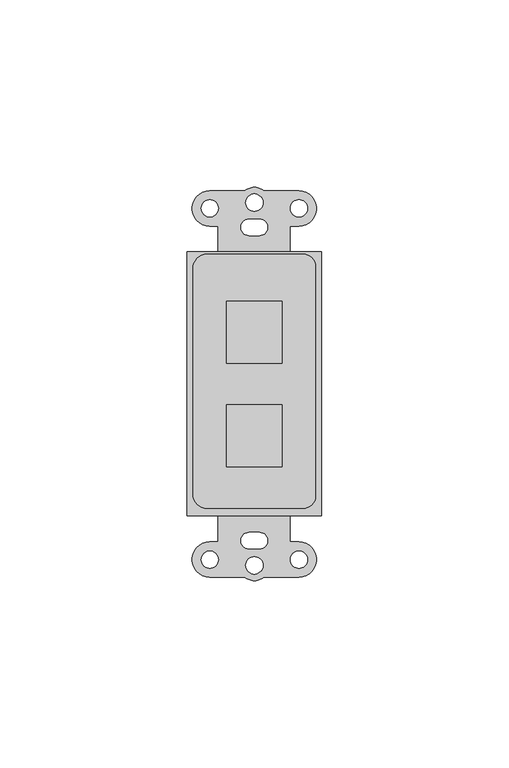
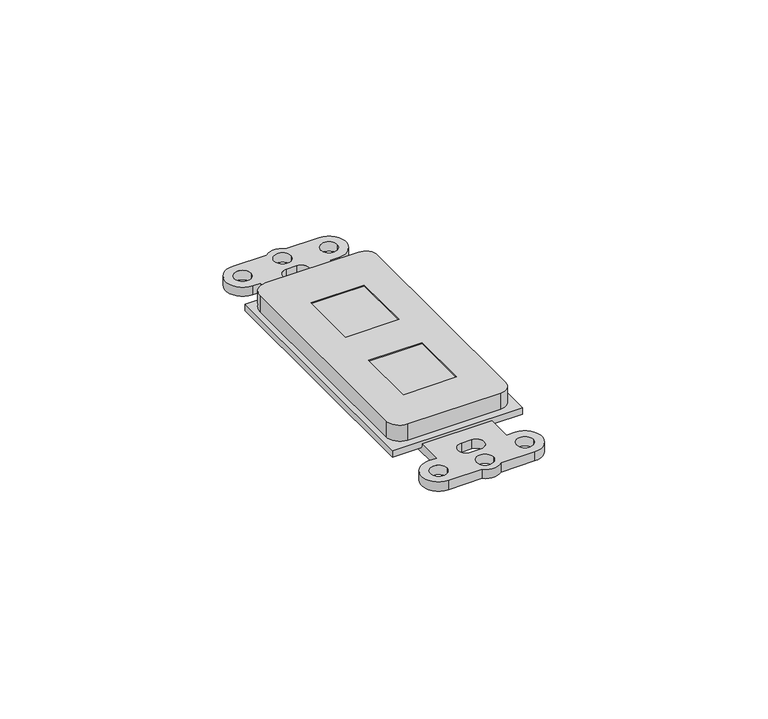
"""IFC4 building model written with IfcOpenShell, lengths in millimetres: electric appliance geometry, Data_Device-Network-Leviton-QuickPort-Duplex : 2-Ports Floor Box Mounting Bezel, Color Black."""

from ifc_helpers import new_model, si_unit, frame, origin, origin_with_axes, place, context, project, spatial, polyline, circle_curve, outline, extrude, faceted_brep, source, transform, mapped, element, save
from ifc_brep_helpers import plane_surface, cylinder_surface, revolved_surface, advanced_brep


def electric_appliance_ba54838b(model_context):
    return source(origin(), model_context, "Body", "SolidModel", [
        faceted_brep([(-14.1351, 4.54147, -3.175), (-14.1351, 4.54147, 1.651), (-14.1351, -20.09653, 1.651), (-14.1351, -20.09653, -3.175), (-14.1351, -17.55653, -3.175), (-14.1351, -17.55653, -1.651), (-14.1351, 2.00147, -1.651), (-14.1351, 2.00147, -3.175), (-31.9151, 4.54147, -3.175), (-31.9151, 2.00147, -3.175), (-31.9151, 2.00147, -1.651), (-31.9151, -17.55653, -1.651), (-31.9151, -17.55653, -3.175), (-31.9151, -20.09653, -3.175), (-31.9151, -20.09653, 1.651), (-31.9151, 4.54147, 1.651), (-30.3911, -0.1337175, 1.651), (-15.6591, -0.1337175, 1.651), (-15.6591, -16.6437175, 1.651), (-30.3911, -16.6437175, 1.651), (-15.6591, -0.1337175, -1.651), (-30.3911, -0.1337175, -1.651), (-30.3911, -16.6437175, -1.651), (-15.6591, -16.6437175, -1.651)], [[[0, 1, 2, 3, 4, 5, 6, 7]], [[8, 9, 10, 11, 12, 13, 14, 15]], [[1, 0, 8, 15]], [[2, 1, 15, 14], [16, 17, 18, 19]], [[3, 2, 14, 13]], [[4, 3, 13, 12]], [[5, 4, 12, 11]], [[6, 5, 11, 10], [20, 21, 22, 23]], [[7, 6, 10, 9]], [[0, 7, 9, 8]], [[20, 17, 16, 21]], [[21, 16, 19, 22]], [[22, 19, 18, 23]], [[17, 20, 23, 18]]]),
        advanced_brep(
        [(-10.0194153, 40.0764273, 8.255), (-35.6225625, 40.0764273, 8.255), (-39.4081, 36.2908898, 8.255), (-39.4081, -23.9315727, 8.255), (-35.6225625, -27.7171102, 8.255), (-10.0194153, -27.7171102, 8.255), (-6.6421, -24.3397948, 8.255), (-6.6421, 36.699112, 8.255), (-30.3911, 27.5522825, 8.255), (-15.6591, 27.5522825, 8.255), (-15.6591, 11.0422825, 8.255), (-30.3911, 11.0422825, 8.255), (-30.3911, -0.1337175, 8.255), (-15.6591, -0.1337175, 8.255), (-15.6591, -16.6437175, 8.255), (-30.3911, -16.6437175, 8.255), (-32.6771, -36.6462175, 2.667), (-34.9256764, -36.6462175, 2.667), (-34.9256764, -46.0442175, 2.667), (-25.6156329, -46.0442175, 2.667), (-20.3869949, -46.0442175, 2.667), (-11.1131764, -46.0442175, 2.667), (-11.1131764, -36.6462175, 2.667), (-13.4944264, -36.6462175, 2.667), (-13.4944264, -29.7247175, 2.667), (-32.6771, -29.7247175, 2.667), (-24.4501, -38.5287175, 2.667), (-24.4501, -34.1287175, 2.667), (-21.6501, -34.1287175, 2.667), (-21.6501, -38.5287175, 2.667), (-37.2116764, -41.3960175, 2.667), (-32.6396764, -41.3960175, 2.667), (-25.3421446, -42.9327175, 2.667), (-20.7080554, -42.9327175, 2.667), (-13.3991764, -41.3960175, 2.667), (-8.8271764, -41.3960175, 2.667), (-13.4944264, 47.5547825, 2.667), (-11.1131764, 47.5547825, 2.667), (-11.1131764, 56.9527825, 2.667), (-20.3869949, 56.9527825, 2.667), (-25.6156329, 56.9527825, 2.667), (-34.9256764, 56.9527825, 2.667), (-34.9256764, 47.5547825, 2.667), (-32.6771, 47.5547825, 2.667), (-32.6771, 40.7159332, 2.667), (-13.4944264, 40.7159332, 2.667), (-24.4501, 49.4372825, 2.667), (-21.6501, 49.4372825, 2.667), (-21.6501, 45.0372825, 2.667), (-24.4501, 45.0372825, 2.667), (-37.2116764, 52.3045825, 2.667), (-32.6396764, 52.3045825, 2.667), (-25.3421446, 53.8412825, 2.667), (-20.7080554, 53.8412825, 2.667), (-13.3991764, 52.3045825, 2.667), (-8.8271764, 52.3045825, 2.667), (-32.6771, -25.4893681, 0.0), (-13.4944264, -25.4893681, 0.0), (-13.4944264, -36.6462175, 0.0), (-11.1131764, -36.6462175, 0.0), (-11.1131764, -46.0442175, 0.0), (-20.3869949, -46.0442175, 0.0), (-25.6156329, -46.0442175, 0.0), (-34.9256764, -46.0442175, 0.0), (-34.9256764, -36.6462175, 0.0), (-32.6771, -36.6462175, 0.0), (-24.4501, -38.5287175, 0.0), (-21.6501, -38.5287175, 0.0), (-21.6501, -34.1287175, 0.0), (-24.4501, -34.1287175, 0.0), (-37.2116764, -41.3960175, 0.0), (-32.6396764, -41.3960175, 0.0), (-25.3421446, -42.9327175, 0.0), (-20.7080554, -42.9327175, 0.0), (-13.3991764, -41.3960175, 0.0), (-8.8271764, -41.3960175, 0.0), (-32.6771, 36.3979332, 0.0), (-32.6771, 47.5547825, 0.0), (-34.9256764, 47.5547825, 0.0), (-34.9256764, 56.9527825, 0.0), (-25.6156329, 56.9527825, 0.0), (-20.3869949, 56.9527825, 0.0), (-11.1131764, 56.9527825, 0.0), (-11.1131764, 47.5547825, 0.0), (-13.4944264, 47.5547825, 0.0), (-13.4944264, 36.3979332, 0.0), (-24.4501, 49.4372825, 0.0), (-24.4501, 45.0372825, 0.0), (-21.6501, 45.0372825, 0.0), (-21.6501, 49.4372825, 0.0), (-37.2116764, 52.3045825, 0.0), (-32.6396764, 52.3045825, 0.0), (-25.3421446, 53.8412825, 0.0), (-20.7080554, 53.8412825, 0.0), (-13.3991764, 52.3045825, 0.0), (-8.8271764, 52.3045825, 0.0), (-32.6771, -29.7247175, 1.651), (-32.6771, -25.4893681, 1.651), (-13.4944264, -25.4893681, 1.651), (-13.4944264, -29.7247175, 1.651), (-13.4944264, 36.3979332, 1.651), (-32.6771, 36.3979332, 1.651), (-13.4944264, 40.7159332, 1.651), (-32.6771, 40.7159332, 1.651), (-10.0194153, 40.0764273, 3.556), (-35.6225625, 40.0764273, 3.556), (-39.4081, 36.2908898, 3.556), (-39.4081, -23.9315727, 3.556), (-35.6225625, -27.7171102, 3.556), (-10.0194153, -27.7171102, 3.556), (-6.6421, -24.3397948, 3.556), (-6.6421, 36.699112, 3.556), (-40.9321, 40.7159332, 3.556), (-40.9321, -29.7247175, 3.556), (-5.1181, -29.7247175, 3.556), (-5.1181, 40.7159332, 3.556), (-5.1181, 40.7159332, 1.651), (-5.1181, -29.7247175, 1.651), (-40.9321, -29.7247175, 1.651), (-40.9321, 40.7159332, 1.651), (-15.6591, -0.1337175, 1.651), (-30.3911, -0.1337175, 1.651), (-30.3911, -16.6437175, 1.651), (-15.6591, -16.6437175, 1.651), (-14.1351, 7.4862825, 1.651), (-14.1351, 32.1242825, 1.651), (-31.9151, 32.1242825, 1.651), (-31.9151, 7.4862825, 1.651), (-15.6591, 27.5522825, -1.651), (-30.3911, 27.5522825, -1.651), (-30.3911, 11.0422825, -1.651), (-15.6591, 11.0422825, -1.651), (-14.1351, 32.1242825, -3.175), (-14.1351, 7.4862825, -3.175), (-14.1351, 10.0262825, -3.175), (-14.1351, 10.0262825, -1.651), (-14.1351, 29.5842825, -1.651), (-14.1351, 29.5842825, -3.175), (-31.9151, 32.1242825, -3.175), (-31.9151, 29.5842825, -3.175), (-31.9151, 29.5842825, -1.651), (-31.9151, 10.0262825, -1.651), (-31.9151, 10.0262825, -3.175), (-31.9151, 7.4862825, -3.175)],
        [
            (0, 1),
            (1, 2, circle_curve(frame((-35.6225625, 36.2908898, 8.255), z_axis=(0.0, 0.0, 1.0), x_axis=(1.0, 0.0, 0.0)), 3.7855375)),
            (2, 3),
            (3, 4, circle_curve(frame((-35.6225625, -23.9315727, 8.255), z_axis=(0.0, 0.0, 1.0), x_axis=(1.0, 0.0, 0.0)), 3.7855375)),
            (4, 5),
            (5, 6, circle_curve(frame((-10.0194153, -24.3397948, 8.255), z_axis=(0.0, 0.0, 1.0), x_axis=(1.0, 0.0, 0.0)), 3.3773153)),
            (6, 7),
            (7, 0, circle_curve(frame((-10.0194153, 36.699112, 8.255), z_axis=(0.0, 0.0, 1.0), x_axis=(1.0, 0.0, 0.0)), 3.3773153)),
            (8, 9),
            (9, 10),
            (10, 11),
            (11, 8),
            (12, 13),
            (13, 14),
            (14, 15),
            (15, 12),
            (16, 17),
            (17, 18, circle_curve(frame((-34.9256764, -41.3452175, 2.667), z_axis=(0.0, 0.0, 1.0), x_axis=(1.0, 0.0, 0.0)), 4.699)),
            (18, 19),
            (19, 20, circle_curve(frame((-23.0013139, -42.9327175, 2.667), z_axis=(0.0, 0.0, 1.0), x_axis=(1.0, 0.0, 0.0)), 4.064)),
            (20, 21),
            (21, 22, circle_curve(frame((-11.1131764, -41.3452175, 2.667), z_axis=(0.0, 0.0, 1.0), x_axis=(1.0, 0.0, 0.0)), 4.699)),
            (22, 23),
            (23, 24),
            (24, 25),
            (25, 16),
            (26, 27, circle_curve(frame((-24.4501, -36.3287175, 2.667), z_axis=(0.0, 0.0, -1.0), x_axis=(1.0, 0.0, 0.0)), 2.2)),
            (27, 28),
            (28, 29, circle_curve(frame((-21.6501, -36.3287175, 2.667), z_axis=(0.0, 0.0, -1.0), x_axis=(1.0, 0.0, 0.0)), 2.2)),
            (29, 26),
            (30, 31, circle_curve(frame((-34.9256764, -41.3960175, 2.667), z_axis=(0.0, 0.0, -1.0), x_axis=(1.0, 0.0, 0.0)), 2.286)),
            (31, 30, circle_curve(frame((-34.9256764, -41.3960175, 2.667), z_axis=(0.0, 0.0, -1.0), x_axis=(1.0, 0.0, 0.0)), 2.286)),
            (32, 33, circle_curve(frame((-23.0251, -42.9327175, 2.667), z_axis=(0.0, 0.0, -1.0), x_axis=(1.0, 0.0, 0.0)), 2.3170446)),
            (33, 32, circle_curve(frame((-23.0251, -42.9327175, 2.667), z_axis=(0.0, 0.0, -1.0), x_axis=(1.0, 0.0, 0.0)), 2.3170446)),
            (34, 35, circle_curve(frame((-11.1131764, -41.3960175, 2.667), z_axis=(0.0, 0.0, -1.0), x_axis=(1.0, 0.0, 0.0)), 2.286)),
            (35, 34, circle_curve(frame((-11.1131764, -41.3960175, 2.667), z_axis=(0.0, 0.0, -1.0), x_axis=(1.0, 0.0, 0.0)), 2.286)),
            (36, 37),
            (37, 38, circle_curve(frame((-11.1131764, 52.2537825, 2.667), z_axis=(0.0, 0.0, 1.0), x_axis=(1.0, 0.0, 0.0)), 4.699)),
            (38, 39),
            (39, 40, circle_curve(frame((-23.0013139, 53.8412825, 2.667), z_axis=(0.0, 0.0, 1.0), x_axis=(1.0, 0.0, 0.0)), 4.064)),
            (40, 41),
            (41, 42, circle_curve(frame((-34.9256764, 52.2537825, 2.667), z_axis=(0.0, 0.0, 1.0), x_axis=(1.0, 0.0, 0.0)), 4.699)),
            (42, 43),
            (43, 44),
            (44, 45),
            (45, 36),
            (46, 47),
            (47, 48, circle_curve(frame((-21.6501, 47.2372825, 2.667), z_axis=(0.0, 0.0, -1.0), x_axis=(1.0, 0.0, 0.0)), 2.2)),
            (48, 49),
            (49, 46, circle_curve(frame((-24.4501, 47.2372825, 2.667), z_axis=(0.0, 0.0, -1.0), x_axis=(1.0, 0.0, 0.0)), 2.2)),
            (50, 51, circle_curve(frame((-34.9256764, 52.3045825, 2.667), z_axis=(0.0, 0.0, -1.0), x_axis=(1.0, 0.0, 0.0)), 2.286)),
            (51, 50, circle_curve(frame((-34.9256764, 52.3045825, 2.667), z_axis=(0.0, 0.0, -1.0), x_axis=(1.0, 0.0, 0.0)), 2.286)),
            (52, 53, circle_curve(frame((-23.0251, 53.8412825, 2.667), z_axis=(0.0, 0.0, -1.0), x_axis=(1.0, 0.0, 0.0)), 2.3170446)),
            (53, 52, circle_curve(frame((-23.0251, 53.8412825, 2.667), z_axis=(0.0, 0.0, -1.0), x_axis=(1.0, 0.0, 0.0)), 2.3170446)),
            (54, 55, circle_curve(frame((-11.1131764, 52.3045825, 2.667), z_axis=(0.0, 0.0, -1.0), x_axis=(1.0, 0.0, 0.0)), 2.286)),
            (55, 54, circle_curve(frame((-11.1131764, 52.3045825, 2.667), z_axis=(0.0, 0.0, -1.0), x_axis=(1.0, 0.0, 0.0)), 2.286)),
            (56, 57),
            (57, 58),
            (58, 59),
            (59, 60, circle_curve(frame((-11.1131764, -41.3452175, 0.0), z_axis=(0.0, 0.0, -1.0), x_axis=(1.0, 0.0, 0.0)), 4.699)),
            (60, 61),
            (61, 62, circle_curve(frame((-23.0013139, -42.9327175, 0.0), z_axis=(0.0, 0.0, -1.0), x_axis=(1.0, 0.0, 0.0)), 4.064)),
            (62, 63),
            (63, 64, circle_curve(frame((-34.9256764, -41.3452175, 0.0), z_axis=(0.0, 0.0, -1.0), x_axis=(1.0, 0.0, 0.0)), 4.699)),
            (64, 65),
            (65, 56),
            (66, 67),
            (67, 68, circle_curve(frame((-21.6501, -36.3287175, 0.0), z_axis=(0.0, 0.0, 1.0), x_axis=(1.0, 0.0, 0.0)), 2.2)),
            (68, 69),
            (69, 66, circle_curve(frame((-24.4501, -36.3287175, 0.0), z_axis=(0.0, 0.0, 1.0), x_axis=(1.0, 0.0, 0.0)), 2.2)),
            (70, 71, circle_curve(frame((-34.9256764, -41.3960175, 0.0), z_axis=(0.0, 0.0, 1.0), x_axis=(1.0, 0.0, 0.0)), 2.286)),
            (71, 70, circle_curve(frame((-34.9256764, -41.3960175, 0.0), z_axis=(0.0, 0.0, 1.0), x_axis=(1.0, 0.0, 0.0)), 2.286)),
            (72, 73, circle_curve(frame((-23.0251, -42.9327175, 0.0), z_axis=(0.0, 0.0, 1.0), x_axis=(1.0, 0.0, 0.0)), 2.3170446)),
            (73, 72, circle_curve(frame((-23.0251, -42.9327175, 0.0), z_axis=(0.0, 0.0, 1.0), x_axis=(1.0, 0.0, 0.0)), 2.3170446)),
            (74, 75, circle_curve(frame((-11.1131764, -41.3960175, 0.0), z_axis=(0.0, 0.0, 1.0), x_axis=(1.0, 0.0, 0.0)), 2.286)),
            (75, 74, circle_curve(frame((-11.1131764, -41.3960175, 0.0), z_axis=(0.0, 0.0, 1.0), x_axis=(1.0, 0.0, 0.0)), 2.286)),
            (76, 77),
            (77, 78),
            (78, 79, circle_curve(frame((-34.9256764, 52.2537825, 0.0), z_axis=(0.0, 0.0, -1.0), x_axis=(1.0, 0.0, 0.0)), 4.699)),
            (79, 80),
            (80, 81, circle_curve(frame((-23.0013139, 53.8412825, 0.0), z_axis=(0.0, 0.0, -1.0), x_axis=(1.0, 0.0, 0.0)), 4.064)),
            (81, 82),
            (82, 83, circle_curve(frame((-11.1131764, 52.2537825, 0.0), z_axis=(0.0, 0.0, -1.0), x_axis=(1.0, 0.0, 0.0)), 4.699)),
            (83, 84),
            (84, 85),
            (85, 76),
            (86, 87, circle_curve(frame((-24.4501, 47.2372825, 0.0), z_axis=(0.0, 0.0, 1.0), x_axis=(1.0, 0.0, 0.0)), 2.2)),
            (87, 88),
            (88, 89, circle_curve(frame((-21.6501, 47.2372825, 0.0), z_axis=(0.0, 0.0, 1.0), x_axis=(1.0, 0.0, 0.0)), 2.2)),
            (89, 86),
            (90, 91, circle_curve(frame((-34.9256764, 52.3045825, 0.0), z_axis=(0.0, 0.0, 1.0), x_axis=(1.0, 0.0, 0.0)), 2.286)),
            (91, 90, circle_curve(frame((-34.9256764, 52.3045825, 0.0), z_axis=(0.0, 0.0, 1.0), x_axis=(1.0, 0.0, 0.0)), 2.286)),
            (92, 93, circle_curve(frame((-23.0251, 53.8412825, 0.0), z_axis=(0.0, 0.0, 1.0), x_axis=(1.0, 0.0, 0.0)), 2.3170446)),
            (93, 92, circle_curve(frame((-23.0251, 53.8412825, 0.0), z_axis=(0.0, 0.0, 1.0), x_axis=(1.0, 0.0, 0.0)), 2.3170446)),
            (94, 95, circle_curve(frame((-11.1131764, 52.3045825, 0.0), z_axis=(0.0, 0.0, 1.0), x_axis=(1.0, 0.0, 0.0)), 2.286)),
            (95, 94, circle_curve(frame((-11.1131764, 52.3045825, 0.0), z_axis=(0.0, 0.0, 1.0), x_axis=(1.0, 0.0, 0.0)), 2.286)),
            (26, 66),
            (69, 27),
            (68, 28),
            (67, 29),
            (46, 86),
            (89, 47),
            (88, 48),
            (87, 49),
            (65, 16),
            (25, 96),
            (96, 97),
            (97, 56),
            (64, 17),
            (63, 18),
            (62, 19),
            (61, 20),
            (60, 21),
            (59, 22),
            (58, 23),
            (57, 98),
            (98, 99),
            (99, 24),
            (97, 98),
            (30, 70),
            (71, 31),
            (32, 72),
            (73, 33),
            (34, 74),
            (75, 35),
            (85, 100),
            (100, 101),
            (101, 76),
            (84, 36),
            (45, 102),
            (102, 100),
            (83, 37),
            (82, 38),
            (81, 39),
            (80, 40),
            (79, 41),
            (78, 42),
            (77, 43),
            (101, 103),
            (103, 44),
            (50, 90),
            (91, 51),
            (52, 92),
            (93, 53),
            (54, 94),
            (95, 55),
            (0, 104),
            (104, 105),
            (105, 1),
            (105, 106, circle_curve(frame((-35.6225625, 36.2908898, 3.556), z_axis=(0.0, 0.0, 1.0), x_axis=(1.0, 0.0, 0.0)), 3.7855375)),
            (106, 2),
            (106, 107),
            (107, 3),
            (107, 108, circle_curve(frame((-35.6225625, -23.9315727, 3.556), z_axis=(0.0, 0.0, 1.0), x_axis=(1.0, 0.0, 0.0)), 3.7855375)),
            (108, 4),
            (108, 109),
            (109, 5),
            (109, 110, circle_curve(frame((-10.0194153, -24.3397948, 3.556), z_axis=(0.0, 0.0, 1.0), x_axis=(1.0, 0.0, 0.0)), 3.3773153)),
            (110, 6),
            (110, 111),
            (111, 7),
            (111, 104, circle_curve(frame((-10.0194153, 36.699112, 3.556), z_axis=(0.0, 0.0, 1.0), x_axis=(1.0, 0.0, 0.0)), 3.3773153)),
            (112, 113),
            (113, 114),
            (114, 115),
            (115, 112),
            (116, 117),
            (117, 99),
            (96, 118),
            (118, 119),
            (119, 103),
            (102, 116),
            (120, 121),
            (121, 122),
            (122, 123),
            (123, 120),
            (124, 125),
            (125, 126),
            (126, 127),
            (127, 124),
            (112, 119),
            (118, 113),
            (117, 114),
            (116, 115),
            (128, 9),
            (8, 129),
            (129, 128),
            (11, 130),
            (130, 129),
            (10, 131),
            (131, 130),
            (128, 131),
            (120, 13),
            (12, 121),
            (15, 122),
            (14, 123),
            (132, 125),
            (124, 133),
            (133, 134),
            (134, 135),
            (135, 136),
            (136, 137),
            (137, 132),
            (138, 139),
            (139, 140),
            (140, 141),
            (141, 142),
            (142, 143),
            (143, 127),
            (126, 138),
            (132, 138),
            (143, 133),
            (142, 134),
            (141, 135),
            (140, 136),
            (139, 137),
        ],
        [
            plane_surface(frame((-35.6225625, 40.0764273, 8.255), z_axis=(0.0, 0.0, 1.0), x_axis=(-1.0, 0.0, 0.0))),
            plane_surface(frame((-22.2501, -36.3287175, 2.667), z_axis=(0.0, 0.0, 1.0), x_axis=(0.0, -1.0, 0.0))),
            plane_surface(frame((-22.2501, -36.3287175, 0.0), z_axis=(0.0, 0.0, -1.0), x_axis=(0.0, 1.0, 0.0))),
            revolved_surface(polyline([(-22.2501, -36.3287175, 0.0), (-22.2501, -36.3287175, 2.667)]), (-24.4501, -36.3287175, 0.0), (0.0, 0.0, -1.0)),
            plane_surface(frame((-24.4501, -34.1287175, 2.667), z_axis=(0.0, -1.0, 0.0), x_axis=(0.0, 0.0, -1.0))),
            revolved_surface(polyline([(-19.4501, -36.3287175, 0.0), (-19.4501, -36.3287175, 2.667)]), (-21.6501, -36.3287175, 0.0), (0.0, 0.0, -1.0)),
            plane_surface(frame((-21.6501, -38.5287175, 2.667), z_axis=(0.0, 1.0, 0.0), x_axis=(0.0, 0.0, -1.0))),
            plane_surface(frame((-24.4501, 49.4372825, 2.667), z_axis=(0.0, -1.0, 0.0), x_axis=(0.0, 0.0, -1.0))),
            revolved_surface(polyline([(-19.4501, 47.2372825, 0.0), (-19.4501, 47.2372825, 2.667)]), (-21.6501, 47.2372825, 0.0), (0.0, 0.0, -1.0)),
            plane_surface(frame((-21.6501, 45.0372825, 2.667), z_axis=(0.0, 1.0, 0.0), x_axis=(0.0, 0.0, -1.0))),
            revolved_surface(polyline([(-22.2501, 47.2372825, 0.0), (-22.2501, 47.2372825, 2.667)]), (-24.4501, 47.2372825, 0.0), (0.0, 0.0, -1.0)),
            plane_surface(frame((-32.6771, -25.4893681, 2.667), z_axis=(-1.0, 0.0, 0.0), x_axis=(0.0, 0.0, -1.0))),
            plane_surface(frame((-32.6771, -36.6462175, 2.667), z_axis=(0.0, 1.0, 0.0), x_axis=(0.0, 0.0, -1.0))),
            cylinder_surface(frame((-34.9256764, -41.3452175, 0.0), z_axis=(0.0, 0.0, 1.0), x_axis=(1.0, 0.0, 0.0)), 4.699),
            plane_surface(frame((-34.9256764, -46.0442175, 2.667), z_axis=(0.0, -1.0, 0.0), x_axis=(0.0, 0.0, -1.0))),
            cylinder_surface(frame((-23.0013139, -42.9327175, 0.0), z_axis=(0.0, 0.0, 1.0), x_axis=(1.0, 0.0, 0.0)), 4.064),
            plane_surface(frame((-20.3869949, -46.0442175, 2.667), z_axis=(0.0, -1.0, 0.0), x_axis=(0.0, 0.0, -1.0))),
            cylinder_surface(frame((-11.1131764, -41.3452175, 0.0), z_axis=(0.0, 0.0, 1.0), x_axis=(1.0, 0.0, 0.0)), 4.699),
            plane_surface(frame((-11.1131764, -36.6462175, 2.667), z_axis=(-1.119104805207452e-12, 1.0, 0.0), x_axis=(0.0, 0.0, -1.0))),
            plane_surface(frame((-13.4944264, -36.6462175, 2.667), z_axis=(1.0, 0.0, 0.0), x_axis=(0.0, 0.0, -1.0))),
            plane_surface(frame((-13.4944264, -25.4893681, 2.667), z_axis=(0.0, 1.0, 0.0), x_axis=(0.0, 0.0, -1.0))),
            revolved_surface(polyline([(-32.6396764, -41.3960175, 0.0), (-32.6396764, -41.3960175, 2.667)]), (-34.9256764, -41.3960175, 0.0), (0.0, 0.0, -1.0)),
            revolved_surface(polyline([(-20.7080554, -42.9327175, 0.0), (-20.7080554, -42.9327175, 2.667)]), (-23.0251, -42.9327175, 0.0), (0.0, 0.0, -1.0)),
            revolved_surface(polyline([(-8.8271764, -41.3960175, 0.0), (-8.8271764, -41.3960175, 2.667)]), (-11.1131764, -41.3960175, 0.0), (0.0, 0.0, -1.0)),
            plane_surface(frame((-32.6771, 36.3979332, 2.667), z_axis=(0.0, -1.0, 0.0), x_axis=(0.0, 0.0, -1.0))),
            plane_surface(frame((-13.4944264, 36.3979332, 2.667), z_axis=(1.0, 0.0, 0.0), x_axis=(0.0, 0.0, -1.0))),
            plane_surface(frame((-13.4944264, 47.5547825, 2.667), z_axis=(1.1581846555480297e-12, -1.0, 0.0), x_axis=(0.0, 0.0, -1.0))),
            cylinder_surface(frame((-11.1131764, 52.2537825, 0.0), z_axis=(0.0, 0.0, 1.0), x_axis=(1.0, 0.0, 0.0)), 4.699),
            plane_surface(frame((-11.1131764, 56.9527825, 2.667), z_axis=(0.0, 1.0, 0.0), x_axis=(0.0, 0.0, -1.0))),
            cylinder_surface(frame((-23.0013139, 53.8412825, 0.0), z_axis=(0.0, 0.0, 1.0), x_axis=(1.0, 0.0, 0.0)), 4.064),
            plane_surface(frame((-25.6156329, 56.9527825, 2.667), z_axis=(0.0, 1.0, 0.0), x_axis=(0.0, 0.0, -1.0))),
            cylinder_surface(frame((-34.9256764, 52.2537825, 0.0), z_axis=(0.0, 0.0, 1.0), x_axis=(1.0, 0.0, 0.0)), 4.699),
            plane_surface(frame((-34.9256764, 47.5547825, 2.667), z_axis=(0.0, -1.0, 0.0), x_axis=(0.0, 0.0, -1.0))),
            plane_surface(frame((-32.6771, 47.5547825, 2.667), z_axis=(-1.0, 0.0, 0.0), x_axis=(0.0, 0.0, -1.0))),
            revolved_surface(polyline([(-32.6396764, 52.3045825, 0.0), (-32.6396764, 52.3045825, 2.667)]), (-34.9256764, 52.3045825, 0.0), (0.0, 0.0, -1.0)),
            revolved_surface(polyline([(-20.7080554, 53.8412825, 0.0), (-20.7080554, 53.8412825, 2.667)]), (-23.0251, 53.8412825, 0.0), (0.0, 0.0, -1.0)),
            revolved_surface(polyline([(-8.8271764, 52.3045825, 0.0), (-8.8271764, 52.3045825, 2.667)]), (-11.1131764, 52.3045825, 0.0), (0.0, 0.0, -1.0)),
            plane_surface(frame((-10.0194153, 40.0764273, 8.255), z_axis=(0.0, 1.0, 0.0), x_axis=(0.0, 0.0, -1.0))),
            cylinder_surface(frame((-35.6225625, 36.2908898, 3.556), z_axis=(0.0, 0.0, 1.0), x_axis=(1.0, 0.0, 0.0)), 3.7855375),
            plane_surface(frame((-39.4081, 36.2908898, 8.255), z_axis=(-1.0, 0.0, 0.0), x_axis=(0.0, 0.0, -1.0))),
            cylinder_surface(frame((-35.6225625, -23.9315727, 3.556), z_axis=(0.0, 0.0, 1.0), x_axis=(1.0, 0.0, 0.0)), 3.7855375),
            plane_surface(frame((-35.6225625, -27.7171102, 8.255), z_axis=(0.0, -1.0, 0.0), x_axis=(0.0, 0.0, -1.0))),
            cylinder_surface(frame((-10.0194153, -24.3397948, 3.556), z_axis=(0.0, 0.0, 1.0), x_axis=(1.0, 0.0, 0.0)), 3.3773153),
            plane_surface(frame((-6.6421, -24.3397948, 8.255), z_axis=(1.0, 0.0, 0.0), x_axis=(0.0, 0.0, -1.0))),
            cylinder_surface(frame((-10.0194153, 36.699112, 3.556), z_axis=(0.0, 0.0, 1.0), x_axis=(1.0, 0.0, 0.0)), 3.3773153),
            plane_surface(frame((-40.9321, -28.9627175, 3.556), z_axis=(0.0, 0.0, 1.0), x_axis=(0.0, -1.0, 0.0))),
            plane_surface(frame((-40.9321, -28.9627175, 1.651), z_axis=(0.0, 0.0, -1.0), x_axis=(0.0, 1.0, 0.0))),
            plane_surface(frame((-40.9321, 40.7159332, 3.556), z_axis=(-1.0, 0.0, 0.0), x_axis=(0.0, 0.0, -1.0))),
            plane_surface(frame((-40.9321, -29.7247175, 3.556), z_axis=(0.0, -1.0, 0.0), x_axis=(0.0, 0.0, -1.0))),
            plane_surface(frame((-5.1181, -29.7247175, 3.556), z_axis=(1.0, 0.0, 0.0), x_axis=(0.0, 0.0, -1.0))),
            plane_surface(frame((-5.1181, 40.7159332, 3.556), z_axis=(0.0, 1.0, 0.0), x_axis=(0.0, 0.0, -1.0))),
            plane_surface(frame((-15.6591, 27.5522825, 8.255), z_axis=(0.0, -1.0, 0.0), x_axis=(0.0, 0.0, -1.0))),
            plane_surface(frame((-30.3911, 27.5522825, 8.255), z_axis=(1.0, 0.0, 0.0), x_axis=(0.0, 0.0, -1.0))),
            plane_surface(frame((-30.3911, 11.0422825, 8.255), z_axis=(0.0, 1.0, 0.0), x_axis=(0.0, 0.0, -1.0))),
            plane_surface(frame((-15.6591, 11.0422825, 8.255), z_axis=(-1.0, 0.0, 0.0), x_axis=(0.0, 0.0, -1.0))),
            plane_surface(frame((-15.6591, -0.1337175, 8.255), z_axis=(0.0, -1.0, 0.0), x_axis=(0.0, 0.0, -1.0))),
            plane_surface(frame((-30.3911, -0.1337175, 8.255), z_axis=(1.0, 0.0, 0.0), x_axis=(0.0, 0.0, -1.0))),
            plane_surface(frame((-30.3911, -16.6437175, 8.255), z_axis=(0.0, 1.0, 0.0), x_axis=(0.0, 0.0, -1.0))),
            plane_surface(frame((-15.6591, -16.6437175, 8.255), z_axis=(-1.0, 0.0, 0.0), x_axis=(0.0, 0.0, -1.0))),
            plane_surface(frame((-14.1351, 32.1242825, 1.651), z_axis=(1.0, 0.0, 0.0), x_axis=(0.0, 0.0, 1.0))),
            plane_surface(frame((-31.9151, 32.1242825, 1.651), z_axis=(-1.0, 0.0, 0.0), x_axis=(0.0, 0.0, -1.0))),
            plane_surface(frame((-14.1351, 32.1242825, -3.175), z_axis=(0.0, 1.0, 0.0), x_axis=(-1.0, 0.0, 0.0))),
            plane_surface(frame((-14.1351, 7.4862825, 1.651), z_axis=(0.0, -1.0, 0.0), x_axis=(-1.0, 0.0, 0.0))),
            plane_surface(frame((-14.1351, 7.4862825, -3.175), z_axis=(0.0, 0.0, -1.0), x_axis=(-1.0, 0.0, 0.0))),
            plane_surface(frame((-14.1351, 10.0262825, -3.175), z_axis=(0.0, 1.0, 0.0), x_axis=(-1.0, 0.0, 0.0))),
            plane_surface(frame((-14.1351, 10.0262825, -1.651), z_axis=(0.0, 0.0, -1.0), x_axis=(-1.0, 0.0, 0.0))),
            plane_surface(frame((-14.1351, 29.5842825, -1.651), z_axis=(0.0, -1.0, 0.0), x_axis=(-1.0, 0.0, 0.0))),
            plane_surface(frame((-14.1351, 29.5842825, -3.175), z_axis=(0.0, 0.0, -1.0), x_axis=(-1.0, 0.0, 0.0))),
        ],
        [
            (0, [[1, 2, 3, 4, 5, 6, 7, 8], [9, 10, 11, 12], [13, 14, 15, 16]]),
            (1, [[17, 18, 19, 20, 21, 22, 23, 24, 25, 26], [27, 28, 29, 30], [31, 32], [33, 34], [35, 36]]),
            (1, [[37, 38, 39, 40, 41, 42, 43, 44, 45, 46], [47, 48, 49, 50], [51, 52], [53, 54], [55, 56]]),
            (2, [[57, 58, 59, 60, 61, 62, 63, 64, 65, 66], [67, 68, 69, 70], [71, 72], [73, 74], [75, 76]]),
            (2, [[77, 78, 79, 80, 81, 82, 83, 84, 85, 86], [87, 88, 89, 90], [91, 92], [93, 94], [95, 96]]),
            (3, [[-27, 97, -70, 98]]),
            (4, [[-28, -98, -69, 99]]),
            (5, [[-29, -99, -68, 100]]),
            (6, [[-30, -100, -67, -97]]),
            (7, [[-47, 101, -90, 102]]),
            (8, [[-48, -102, -89, 103]]),
            (9, [[-49, -103, -88, 104]]),
            (10, [[-50, -104, -87, -101]]),
            (11, [[-66, 105, -26, 106, 107, 108]]),
            (12, [[-17, -105, -65, 109]]),
            (13, [[-18, -109, -64, 110]]),
            (14, [[-19, -110, -63, 111]]),
            (15, [[-20, -111, -62, 112]]),
            (16, [[-21, -112, -61, 113]]),
            (17, [[-22, -113, -60, 114]]),
            (18, [[-23, -114, -59, 115]]),
            (19, [[-58, 116, 117, 118, -24, -115]]),
            (20, [[-57, -108, 119, -116]]),
            (21, [[-31, 120, -72, 121]]),
            (21, [[-32, -121, -71, -120]]),
            (22, [[-33, 122, -74, 123]]),
            (22, [[-34, -123, -73, -122]]),
            (23, [[-35, 124, -76, 125]]),
            (23, [[-36, -125, -75, -124]]),
            (24, [[-86, 126, 127, 128]]),
            (25, [[-85, 129, -46, 130, 131, -126]]),
            (26, [[-37, -129, -84, 132]]),
            (27, [[-38, -132, -83, 133]]),
            (28, [[-39, -133, -82, 134]]),
            (29, [[-40, -134, -81, 135]]),
            (30, [[-41, -135, -80, 136]]),
            (31, [[-42, -136, -79, 137]]),
            (32, [[-43, -137, -78, 138]]),
            (33, [[-77, -128, 139, 140, -44, -138]]),
            (34, [[-51, 141, -92, 142]]),
            (34, [[-52, -142, -91, -141]]),
            (35, [[-53, 143, -94, 144]]),
            (35, [[-54, -144, -93, -143]]),
            (36, [[-55, 145, -96, 146]]),
            (36, [[-56, -146, -95, -145]]),
            (37, [[-1, 147, 148, 149]]),
            (38, [[-2, -149, 150, 151]]),
            (39, [[-3, -151, 152, 153]]),
            (40, [[-4, -153, 154, 155]]),
            (41, [[-5, -155, 156, 157]]),
            (42, [[-6, -157, 158, 159]]),
            (43, [[-7, -159, 160, 161]]),
            (44, [[-8, -161, 162, -147]]),
            (45, [[163, 164, 165, 166], [-148, -162, -160, -158, -156, -154, -152, -150]]),
            (46, [[167, 168, -117, -119, -107, 169, 170, 171, -139, -127, -131, 172], [173, 174, 175, 176], [177, 178, 179, 180]]),
            (47, [[-163, 181, -170, 182]]),
            (48, [[-164, -182, -169, -106, -25, -118, -168, 183]]),
            (49, [[-165, -183, -167, 184]]),
            (50, [[-166, -184, -172, -130, -45, -140, -171, -181]]),
            (51, [[185, -9, 186, 187]]),
            (52, [[-186, -12, 188, 189]]),
            (53, [[-188, -11, 190, 191]]),
            (54, [[-185, 192, -190, -10]]),
            (55, [[193, -13, 194, -173]]),
            (56, [[-194, -16, 195, -174]]),
            (57, [[-195, -15, 196, -175]]),
            (58, [[-193, -176, -196, -14]]),
            (59, [[197, -177, 198, 199, 200, 201, 202, 203]]),
            (60, [[204, 205, 206, 207, 208, 209, -179, 210]]),
            (61, [[-197, 211, -210, -178]]),
            (62, [[-198, -180, -209, 212]]),
            (63, [[-199, -212, -208, 213]]),
            (64, [[-200, -213, -207, 214]]),
            (65, [[-201, -214, -206, 215], [-187, -189, -191, -192]]),
            (66, [[-202, -215, -205, 216]]),
            (67, [[-203, -216, -204, -211]]),
        ],
    ),
        extrude(outline(polyline([(-30.3911, -16.6437175), (-30.3911, -0.1337175), (-15.6591, -0.1337175), (-15.6591, -16.6437175), (-30.3911, -16.6437175)])), origin_with_axes(), (0.0, 0.0, 1.0), 8.255),
        extrude(outline(polyline([(-15.6591, 27.5522825), (-15.6591, 11.0422825), (-30.3911, 11.0422825), (-30.3911, 27.5522825), (-15.6591, 27.5522825)])), origin_with_axes(), (0.0, 0.0, 1.0), 8.255),
    ])


if __name__ == "__main__":
    model = new_model("IFC4")
    model_context = context("Model", 3, world=origin())
    ifc_project = project(units=[si_unit("LENGTHUNIT", "METRE", prefix="MILLI")], contexts=[model_context])
    site = spatial("IfcSite", under=ifc_project)
    building = spatial("IfcBuilding", under=site)
    placement = place(None, origin())
    electric_appliance_shape = electric_appliance_ba54838b(model_context)
    element("IfcElectricAppliance", 1, ObjectType="Data_Device-Network-Leviton-QuickPort-Duplex : 2-Ports Floor Box Mounting Bezel, Color Black", at=placement, inside=building, context=model_context, shape_type="MappedRepresentation", body=[
        mapped(electric_appliance_shape, transform((0.0, 0.0, 0.0), x_axis=(1.0, 0.0, 0.0), y_axis=(0.0, 1.0, 0.0), z_axis=(0.0, 0.0, 1.0))),
    ])
    save(model, "model.ifc")
